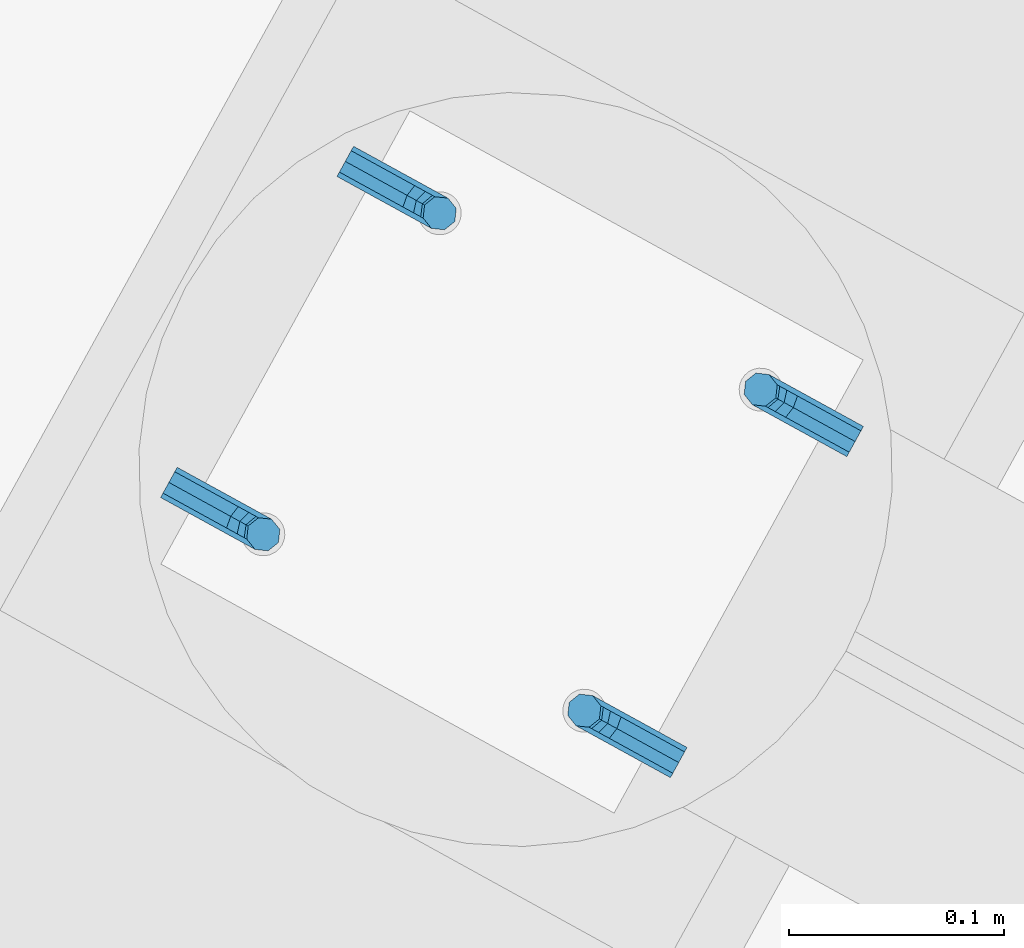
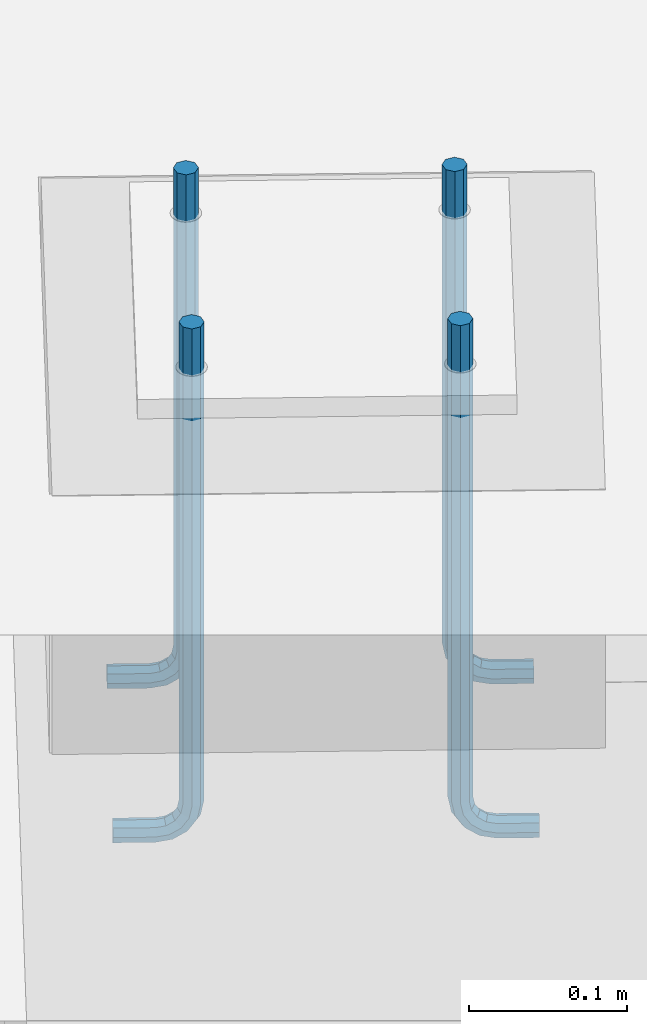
# One storey, part 20 of 22: 4 beams.
"""IFC2X3 building model written with IfcOpenShell, lengths in millimetres."""

from ifc_helpers import new_model, si_unit, frame, origin_with_axes, place, context, subcontext, project, spatial, faceted_brep, material, type_object, element, save


model = new_model("IFC2X3")

# Units and contexts
model_context = context("Model", 3, precision=1e-05, world=origin_with_axes())
body_context = subcontext(model_context, "Body", "Model", "MODEL_VIEW")
ifc_project = project(units=[si_unit("LENGTHUNIT", "METRE", prefix="MILLI"), si_unit("AREAUNIT", "SQUARE_METRE"), si_unit("VOLUMEUNIT", "CUBIC_METRE"), si_unit("MASSUNIT", "GRAM", prefix="KILO"), si_unit("TIMEUNIT", "SECOND"), si_unit("PLANEANGLEUNIT", "RADIAN"), si_unit("SOLIDANGLEUNIT", "STERADIAN"), si_unit("THERMODYNAMICTEMPERATUREUNIT", "DEGREE_CELSIUS"), si_unit("LUMINOUSINTENSITYUNIT", "LUMEN")], contexts=[model_context])

# Site, building, storey
site_placement = place(None, origin_with_axes())
site = spatial("IfcSite", under=ifc_project, at=site_placement, Name="Undefined", CompositionType="ELEMENT")
building_placement = place(site_placement, origin_with_axes())
building = spatial("IfcBuilding", under=site, at=building_placement, Name="Undefined", CompositionType="ELEMENT")
storey_placement = place(building_placement, origin_with_axes())
storey = spatial("IfcBuildingStorey", under=building, at=storey_placement, Name="Undefined", CompositionType="ELEMENT", Elevation=0.0)

# Beams
ifc_material = material(Name="STEEL/S235JR")
beam_type = type_object("IfcBeamType", Name="ANKER_M16", PredefinedType="NOTDEFINED")
beam_1_placement = place(storey_placement, frame((60634.7016508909, 14027.6564898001, 0.0), z_axis=(-0.876415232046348, 0.481556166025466, 0.0), x_axis=(0.0, 0.0, -1.0)))
element("IfcBeam", 1, at=beam_1_placement, inside=storey, type_object=beam_type, material=ifc_material, Name="ANKER", context=body_context, shape_type="Brep", body=[
    faceted_brep([(0.0, -8.00000000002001, 7.27595761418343e-12), (0.0, -5.65685424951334, -5.65685424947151), (369.0, -5.65685424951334, -5.65685424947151), (369.0, -8.00000000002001, 7.27595761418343e-12), (0.0, -9.09494701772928e-12, -7.99999999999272), (369.0, -9.09494701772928e-12, -7.99999999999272), (0.0, 5.65685424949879, -5.65685424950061), (369.0, 5.65685424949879, -5.65685424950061), (0.0, 8.00000000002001, -3.63797880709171e-11), (369.0, 8.00000000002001, -3.63797880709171e-11), (0.0, 5.65685424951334, 5.65685424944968), (369.0, 5.65685424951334, 5.65685424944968), (0.0, 5.45696821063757e-12, 7.99999999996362), (369.0, 5.45696821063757e-12, 7.99999999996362), (0.0, -5.65685424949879, 5.65685424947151), (369.0, -5.65685424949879, 5.65685424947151), (380.863186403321, 9.09494701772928e-12, 5.64026550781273), (379.966503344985, 5.65685424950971, 3.4754811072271), (377.8017189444, 8.00000000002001, -1.75077075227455), (375.636934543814, 5.65685424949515, -6.97702261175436), (374.740251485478, -9.09494701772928e-12, -9.14180701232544), (375.636934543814, -5.65685424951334, -6.97702261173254), (377.8017189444, -8.00000000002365, -1.75077075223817), (379.966503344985, -5.65685424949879, 3.4754811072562), (389.263455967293, -5.65685424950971, -2.73654403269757), (390.920310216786, -1.81898940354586e-12, -1.07968978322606), (385.263455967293, -8.00000000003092, -6.73654403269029), (381.263455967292, -5.65685424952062, -10.736544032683), (379.6066017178, -9.09494701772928e-12, -12.3933982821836), (381.263455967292, 5.65685424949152, -10.7365440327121), (385.263455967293, 8.00000000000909, -6.73654403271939), (389.263455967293, 5.65685424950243, -2.73654403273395), (395.475481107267, -5.65685424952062, -12.0334966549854), (397.640265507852, -1.2732925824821e-11, -11.1368135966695), (390.249229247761, -8.00000000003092, -14.1982810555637), (385.022977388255, -5.65685424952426, -16.3630654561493), (382.85819298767, -1.63709046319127e-11, -17.2597485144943), (385.022977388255, 5.65685424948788, -16.3630654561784), (390.249229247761, 8.00000000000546, -14.1982810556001), (395.475481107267, 5.65685424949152, -12.0334966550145), (397.656854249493, -5.65685424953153, -22.9999999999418), (400.000000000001, -2.36468622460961e-11, -22.9999999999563), (392.0, -8.00000000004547, -22.9999999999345), (386.343145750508, -5.65685424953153, -22.9999999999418), (384.000000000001, -2.36468622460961e-11, -22.9999999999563), (386.343145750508, 5.65685424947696, -22.9999999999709), (392.000000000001, 7.99999999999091, -22.9999999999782), (397.656854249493, 5.65685424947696, -22.9999999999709), (386.343145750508, -5.65685424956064, -49.9999999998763), (392.0, -8.00000000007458, -49.999999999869), (384.0, -5.63886715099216e-11, -49.9999999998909), (386.343145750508, 5.65685424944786, -49.9999999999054), (392.0, 7.9999999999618, -49.9999999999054), (397.656854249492, 5.65685424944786, -49.9999999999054), (400.0, -5.63886715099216e-11, -49.9999999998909), (397.656854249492, -5.65685424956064, -49.9999999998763)], [[[0, 1, 2, 3]], [[1, 4, 5, 2]], [[4, 6, 7, 5]], [[6, 8, 9, 7]], [[8, 10, 11, 9]], [[10, 12, 13, 11]], [[12, 14, 15, 13]], [[14, 0, 3, 15]], [[14, 12, 10, 8, 6, 4, 1, 0]], [[11, 13, 16, 17]], [[9, 11, 17, 18]], [[7, 9, 18, 19]], [[5, 7, 19, 20]], [[2, 5, 20, 21]], [[3, 2, 21, 22]], [[15, 3, 22, 23]], [[13, 15, 23, 16]], [[23, 24, 25, 16]], [[22, 26, 24, 23]], [[21, 27, 26, 22]], [[20, 28, 27, 21]], [[19, 29, 28, 20]], [[18, 30, 29, 19]], [[17, 31, 30, 18]], [[16, 25, 31, 17]], [[24, 32, 33, 25]], [[26, 34, 32, 24]], [[27, 35, 34, 26]], [[28, 36, 35, 27]], [[29, 37, 36, 28]], [[30, 38, 37, 29]], [[31, 39, 38, 30]], [[25, 33, 39, 31]], [[32, 40, 41, 33]], [[34, 42, 40, 32]], [[35, 43, 42, 34]], [[36, 44, 43, 35]], [[37, 45, 44, 36]], [[38, 46, 45, 37]], [[39, 47, 46, 38]], [[33, 41, 47, 39]], [[42, 43, 48, 49]], [[43, 44, 50, 48]], [[44, 45, 51, 50]], [[45, 46, 52, 51]], [[46, 47, 53, 52]], [[47, 41, 54, 53]], [[41, 40, 55, 54]], [[40, 42, 49, 55]], [[50, 51, 52, 53, 54, 55, 49, 48]]]),
])
beam_2_placement = place(storey_placement, frame((60716.5661991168, 14176.6470792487, 0.0), z_axis=(-0.876415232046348, 0.481556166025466, 0.0), x_axis=(0.0, 0.0, -1.0)))
element("IfcBeam", 2, at=beam_2_placement, inside=storey, type_object=beam_type, material=ifc_material, Name="ANKER", context=body_context, shape_type="Brep", body=[
    faceted_brep([(0.0, -8.00000000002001, 7.27595761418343e-12), (0.0, -5.65685424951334, -5.65685424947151), (369.0, -5.65685424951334, -5.65685424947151), (369.0, -8.00000000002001, 7.27595761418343e-12), (0.0, -9.09494701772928e-12, -7.99999999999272), (369.0, -9.09494701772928e-12, -7.99999999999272), (0.0, 5.65685424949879, -5.65685424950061), (369.0, 5.65685424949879, -5.65685424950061), (0.0, 8.00000000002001, -3.63797880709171e-11), (369.0, 8.00000000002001, -3.63797880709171e-11), (0.0, 5.65685424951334, 5.65685424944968), (369.0, 5.65685424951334, 5.65685424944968), (0.0, 5.45696821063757e-12, 7.99999999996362), (369.0, 5.45696821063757e-12, 7.99999999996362), (0.0, -5.65685424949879, 5.65685424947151), (369.0, -5.65685424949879, 5.65685424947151), (380.863186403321, 9.09494701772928e-12, 5.64026550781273), (379.966503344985, 5.65685424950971, 3.4754811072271), (377.8017189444, 8.00000000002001, -1.75077075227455), (375.636934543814, 5.65685424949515, -6.97702261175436), (374.740251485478, -9.09494701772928e-12, -9.14180701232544), (375.636934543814, -5.65685424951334, -6.97702261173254), (377.8017189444, -8.00000000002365, -1.75077075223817), (379.966503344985, -5.65685424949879, 3.4754811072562), (389.263455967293, -5.65685424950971, -2.73654403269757), (390.920310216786, -1.81898940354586e-12, -1.07968978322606), (385.263455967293, -8.00000000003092, -6.73654403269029), (381.263455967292, -5.65685424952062, -10.736544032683), (379.6066017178, -9.09494701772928e-12, -12.3933982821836), (381.263455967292, 5.65685424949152, -10.7365440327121), (385.263455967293, 8.00000000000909, -6.73654403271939), (389.263455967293, 5.65685424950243, -2.73654403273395), (395.475481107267, -5.65685424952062, -12.0334966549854), (397.640265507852, -1.2732925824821e-11, -11.1368135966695), (390.249229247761, -8.00000000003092, -14.1982810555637), (385.022977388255, -5.65685424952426, -16.3630654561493), (382.85819298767, -1.63709046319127e-11, -17.2597485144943), (385.022977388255, 5.65685424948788, -16.3630654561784), (390.249229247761, 8.00000000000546, -14.1982810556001), (395.475481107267, 5.65685424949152, -12.0334966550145), (397.656854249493, -5.65685424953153, -22.9999999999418), (400.000000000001, -2.36468622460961e-11, -22.9999999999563), (392.0, -8.00000000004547, -22.9999999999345), (386.343145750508, -5.65685424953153, -22.9999999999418), (384.000000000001, -2.36468622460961e-11, -22.9999999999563), (386.343145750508, 5.65685424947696, -22.9999999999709), (392.000000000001, 7.99999999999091, -22.9999999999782), (397.656854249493, 5.65685424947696, -22.9999999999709), (386.343145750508, -5.65685424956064, -49.9999999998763), (392.0, -8.00000000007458, -49.999999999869), (384.0, -5.63886715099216e-11, -49.9999999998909), (386.343145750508, 5.65685424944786, -49.9999999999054), (392.0, 7.9999999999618, -49.9999999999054), (397.656854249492, 5.65685424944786, -49.9999999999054), (400.0, -5.63886715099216e-11, -49.9999999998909), (397.656854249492, -5.65685424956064, -49.9999999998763)], [[[0, 1, 2, 3]], [[1, 4, 5, 2]], [[4, 6, 7, 5]], [[6, 8, 9, 7]], [[8, 10, 11, 9]], [[10, 12, 13, 11]], [[12, 14, 15, 13]], [[14, 0, 3, 15]], [[14, 12, 10, 8, 6, 4, 1, 0]], [[11, 13, 16, 17]], [[9, 11, 17, 18]], [[7, 9, 18, 19]], [[5, 7, 19, 20]], [[2, 5, 20, 21]], [[3, 2, 21, 22]], [[15, 3, 22, 23]], [[13, 15, 23, 16]], [[23, 24, 25, 16]], [[22, 26, 24, 23]], [[21, 27, 26, 22]], [[20, 28, 27, 21]], [[19, 29, 28, 20]], [[18, 30, 29, 19]], [[17, 31, 30, 18]], [[16, 25, 31, 17]], [[24, 32, 33, 25]], [[26, 34, 32, 24]], [[27, 35, 34, 26]], [[28, 36, 35, 27]], [[29, 37, 36, 28]], [[30, 38, 37, 29]], [[31, 39, 38, 30]], [[25, 33, 39, 31]], [[32, 40, 41, 33]], [[34, 42, 40, 32]], [[35, 43, 42, 34]], [[36, 44, 43, 35]], [[37, 45, 44, 36]], [[38, 46, 45, 37]], [[39, 47, 46, 38]], [[33, 41, 47, 39]], [[42, 43, 48, 49]], [[43, 44, 50, 48]], [[44, 45, 51, 50]], [[45, 46, 52, 51]], [[46, 47, 53, 52]], [[47, 41, 54, 53]], [[41, 40, 55, 54]], [[40, 42, 49, 55]], [[50, 51, 52, 53, 54, 55, 49, 48]]]),
])
beam_3_placement = place(storey_placement, frame((60485.7110614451, 14109.5210380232, 0.0), z_axis=(-0.876415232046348, 0.481556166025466, 0.0), x_axis=(0.0, 0.0, -1.0)))
element("IfcBeam", 3, at=beam_3_placement, inside=storey, type_object=beam_type, material=ifc_material, Name="ANKER", context=body_context, shape_type="Brep", body=[
    faceted_brep([(0.0, -8.00000000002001, 7.27595761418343e-12), (0.0, -5.65685424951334, -5.65685424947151), (369.0, -5.65685424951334, -5.65685424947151), (369.0, -8.00000000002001, 7.27595761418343e-12), (0.0, -9.09494701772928e-12, -7.99999999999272), (369.0, -9.09494701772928e-12, -7.99999999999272), (0.0, 5.65685424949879, -5.65685424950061), (369.0, 5.65685424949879, -5.65685424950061), (0.0, 8.00000000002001, -3.63797880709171e-11), (369.0, 8.00000000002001, -3.63797880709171e-11), (0.0, 5.65685424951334, 5.65685424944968), (369.0, 5.65685424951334, 5.65685424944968), (0.0, 5.45696821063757e-12, 7.99999999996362), (369.0, 5.45696821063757e-12, 7.99999999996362), (0.0, -5.65685424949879, 5.65685424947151), (369.0, -5.65685424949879, 5.65685424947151), (380.863186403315, -9.09494701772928e-12, -5.64026550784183), (379.966503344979, -5.65685424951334, -3.47548110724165), (377.801718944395, -8.00000000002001, 1.75077075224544), (375.636934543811, -5.65685424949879, 6.97702261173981), (374.740251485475, 1.2732925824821e-11, 9.14180701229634), (375.636934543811, 5.65685424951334, 6.97702261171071), (377.801718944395, 8.00000000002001, 1.75077075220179), (379.966503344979, 5.65685424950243, -3.47548110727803), (389.263455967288, 5.65685424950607, 2.73654403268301), (390.920310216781, -1.81898940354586e-12, 1.07968978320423), (385.263455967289, 8.00000000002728, 6.73654403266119), (381.263455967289, 5.65685424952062, 10.7365440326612), (379.606601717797, 1.2732925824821e-11, 12.3933982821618), (381.263455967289, -5.65685424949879, 10.736544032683), (385.263455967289, -8.00000000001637, 6.73654403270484), (389.263455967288, -5.65685424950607, 2.73654403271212), (395.475481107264, 5.65685424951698, 12.0334966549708), (397.640265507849, 1.2732925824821e-11, 11.1368135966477), (390.249229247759, 8.00000000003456, 14.1982810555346), (385.022977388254, 5.65685424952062, 16.3630654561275), (382.858192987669, 1.63709046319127e-11, 17.2597485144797), (385.022977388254, -5.65685424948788, 16.3630654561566), (390.249229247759, -8.00000000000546, 14.1982810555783), (395.475481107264, -5.65685424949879, 12.0334966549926), (397.656854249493, 5.65685424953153, 22.99999999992), (400.000000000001, 2.36468622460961e-11, 22.9999999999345), (392.000000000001, 8.00000000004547, 22.99999999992), (386.343145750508, 5.65685424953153, 22.99999999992), (384.000000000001, 2.36468622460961e-11, 22.9999999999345), (386.343145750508, -5.65685424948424, 22.9999999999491), (392.0, -7.99999999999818, 22.9999999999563), (397.656854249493, -5.65685424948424, 22.9999999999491), (397.656854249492, -5.6568542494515, 49.9999999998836), (392.0, -7.99999999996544, 49.9999999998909), (400.0, 5.27506927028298e-11, 49.999999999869), (397.656854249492, 5.65685424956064, 49.9999999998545), (392.0, 8.00000000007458, 49.9999999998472), (386.343145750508, 5.65685424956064, 49.9999999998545), (384.0, 5.27506927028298e-11, 49.999999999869), (386.343145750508, -5.6568542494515, 49.9999999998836)], [[[0, 1, 2, 3]], [[1, 4, 5, 2]], [[4, 6, 7, 5]], [[6, 8, 9, 7]], [[8, 10, 11, 9]], [[10, 12, 13, 11]], [[12, 14, 15, 13]], [[14, 0, 3, 15]], [[14, 12, 10, 8, 6, 4, 1, 0]], [[2, 5, 16, 17]], [[3, 2, 17, 18]], [[15, 3, 18, 19]], [[13, 15, 19, 20]], [[11, 13, 20, 21]], [[9, 11, 21, 22]], [[7, 9, 22, 23]], [[5, 7, 23, 16]], [[23, 24, 25, 16]], [[22, 26, 24, 23]], [[21, 27, 26, 22]], [[20, 28, 27, 21]], [[19, 29, 28, 20]], [[18, 30, 29, 19]], [[17, 31, 30, 18]], [[16, 25, 31, 17]], [[24, 32, 33, 25]], [[26, 34, 32, 24]], [[27, 35, 34, 26]], [[28, 36, 35, 27]], [[29, 37, 36, 28]], [[30, 38, 37, 29]], [[31, 39, 38, 30]], [[25, 33, 39, 31]], [[32, 40, 41, 33]], [[34, 42, 40, 32]], [[35, 43, 42, 34]], [[36, 44, 43, 35]], [[37, 45, 44, 36]], [[38, 46, 45, 37]], [[39, 47, 46, 38]], [[33, 41, 47, 39]], [[46, 47, 48, 49]], [[47, 41, 50, 48]], [[41, 40, 51, 50]], [[40, 42, 52, 51]], [[42, 43, 53, 52]], [[43, 44, 54, 53]], [[44, 45, 55, 54]], [[45, 46, 49, 55]], [[50, 51, 52, 53, 54, 55, 49, 48]]]),
])
beam_4_placement = place(storey_placement, frame((60567.575609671, 14258.5116274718, 0.0), z_axis=(0.876415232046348, -0.481556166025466, 0.0), x_axis=(0.0, 0.0, -1.0)))
element("IfcBeam", 4, at=beam_4_placement, inside=storey, type_object=beam_type, material=ifc_material, Name="ANKER", context=body_context, shape_type="Brep", body=[
    faceted_brep([(0.0, -8.00000000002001, 7.27595761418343e-12), (0.0, -5.65685424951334, -5.65685424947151), (369.0, -5.65685424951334, -5.65685424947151), (369.0, -8.00000000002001, 7.27595761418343e-12), (0.0, -9.09494701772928e-12, -7.99999999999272), (369.0, -9.09494701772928e-12, -7.99999999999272), (0.0, 5.65685424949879, -5.65685424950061), (369.0, 5.65685424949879, -5.65685424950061), (0.0, 8.00000000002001, -3.63797880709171e-11), (369.0, 8.00000000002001, -3.63797880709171e-11), (0.0, 5.65685424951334, 5.65685424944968), (369.0, 5.65685424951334, 5.65685424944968), (0.0, 5.45696821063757e-12, 7.99999999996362), (369.0, 5.45696821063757e-12, 7.99999999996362), (0.0, -5.65685424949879, 5.65685424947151), (369.0, -5.65685424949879, 5.65685424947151), (380.863186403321, 9.09494701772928e-12, 5.64026550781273), (379.966503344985, 5.65685424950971, 3.4754811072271), (377.8017189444, 8.00000000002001, -1.75077075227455), (375.636934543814, 5.65685424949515, -6.97702261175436), (374.740251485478, -9.09494701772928e-12, -9.14180701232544), (375.636934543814, -5.65685424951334, -6.97702261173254), (377.8017189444, -8.00000000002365, -1.75077075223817), (379.966503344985, -5.65685424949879, 3.4754811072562), (389.263455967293, -5.65685424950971, -2.73654403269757), (390.920310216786, -1.81898940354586e-12, -1.07968978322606), (385.263455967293, -8.00000000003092, -6.73654403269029), (381.263455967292, -5.65685424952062, -10.736544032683), (379.6066017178, -9.09494701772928e-12, -12.3933982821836), (381.263455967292, 5.65685424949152, -10.7365440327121), (385.263455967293, 8.00000000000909, -6.73654403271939), (389.263455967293, 5.65685424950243, -2.73654403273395), (395.475481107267, -5.65685424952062, -12.0334966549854), (397.640265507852, -1.2732925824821e-11, -11.1368135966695), (390.249229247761, -8.00000000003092, -14.1982810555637), (385.022977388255, -5.65685424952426, -16.3630654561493), (382.85819298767, -1.63709046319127e-11, -17.2597485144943), (385.022977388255, 5.65685424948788, -16.3630654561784), (390.249229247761, 8.00000000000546, -14.1982810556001), (395.475481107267, 5.65685424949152, -12.0334966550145), (397.656854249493, -5.65685424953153, -22.9999999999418), (400.000000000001, -2.36468622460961e-11, -22.9999999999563), (392.0, -8.00000000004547, -22.9999999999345), (386.343145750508, -5.65685424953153, -22.9999999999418), (384.000000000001, -2.36468622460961e-11, -22.9999999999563), (386.343145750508, 5.65685424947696, -22.9999999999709), (392.000000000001, 7.99999999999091, -22.9999999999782), (397.656854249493, 5.65685424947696, -22.9999999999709), (386.343145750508, -5.65685424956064, -49.9999999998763), (392.0, -8.00000000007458, -49.999999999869), (384.0, -5.63886715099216e-11, -49.9999999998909), (386.343145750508, 5.65685424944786, -49.9999999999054), (392.0, 7.9999999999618, -49.9999999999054), (397.656854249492, 5.65685424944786, -49.9999999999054), (400.0, -5.63886715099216e-11, -49.9999999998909), (397.656854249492, -5.65685424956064, -49.9999999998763)], [[[0, 1, 2, 3]], [[1, 4, 5, 2]], [[4, 6, 7, 5]], [[6, 8, 9, 7]], [[8, 10, 11, 9]], [[10, 12, 13, 11]], [[12, 14, 15, 13]], [[14, 0, 3, 15]], [[14, 12, 10, 8, 6, 4, 1, 0]], [[11, 13, 16, 17]], [[9, 11, 17, 18]], [[7, 9, 18, 19]], [[5, 7, 19, 20]], [[2, 5, 20, 21]], [[3, 2, 21, 22]], [[15, 3, 22, 23]], [[13, 15, 23, 16]], [[23, 24, 25, 16]], [[22, 26, 24, 23]], [[21, 27, 26, 22]], [[20, 28, 27, 21]], [[19, 29, 28, 20]], [[18, 30, 29, 19]], [[17, 31, 30, 18]], [[16, 25, 31, 17]], [[24, 32, 33, 25]], [[26, 34, 32, 24]], [[27, 35, 34, 26]], [[28, 36, 35, 27]], [[29, 37, 36, 28]], [[30, 38, 37, 29]], [[31, 39, 38, 30]], [[25, 33, 39, 31]], [[32, 40, 41, 33]], [[34, 42, 40, 32]], [[35, 43, 42, 34]], [[36, 44, 43, 35]], [[37, 45, 44, 36]], [[38, 46, 45, 37]], [[39, 47, 46, 38]], [[33, 41, 47, 39]], [[42, 43, 48, 49]], [[43, 44, 50, 48]], [[44, 45, 51, 50]], [[45, 46, 52, 51]], [[46, 47, 53, 52]], [[47, 41, 54, 53]], [[41, 40, 55, 54]], [[40, 42, 49, 55]], [[50, 51, 52, 53, 54, 55, 49, 48]]]),
])

save(model, "model.ifc")
